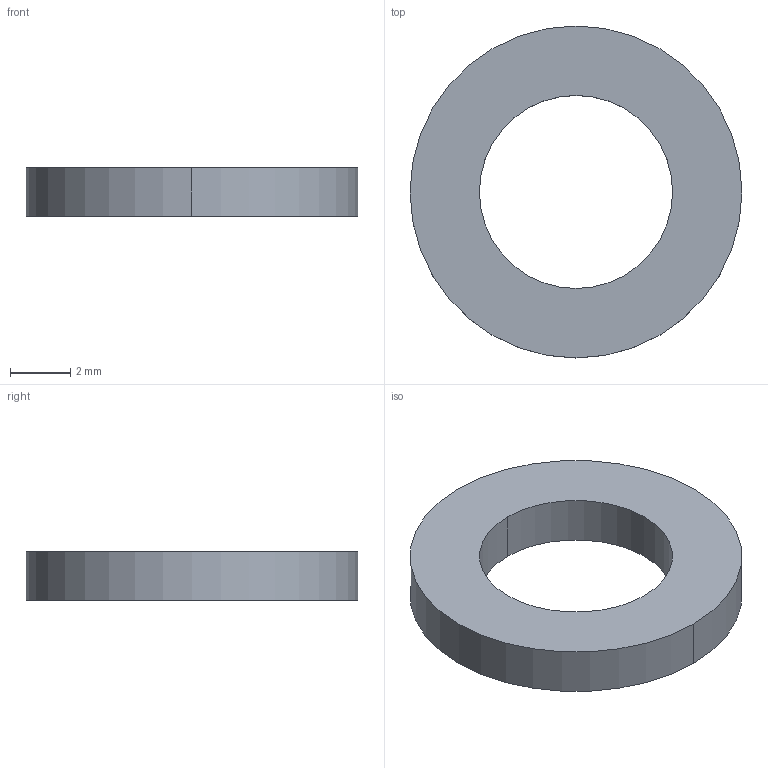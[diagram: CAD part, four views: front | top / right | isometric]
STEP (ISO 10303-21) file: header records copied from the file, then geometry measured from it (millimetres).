
FILE_DESCRIPTION(('3DEXPERIENCE STEP','CAx-IF Rec.Pracs.--- Model Styling and Organization---1.5--- 2016-08-15','CAx-IF Rec.Pracs.---Supplemental Geometry---1.0---2011-11-01','CAx-IF Rec.Pracs.--- Composite Materials ---3.4---2017-06-13','CAx-IF Rec.Pracs.---Tessellated 3D Geometry---1.0---2015-12-17'),'2;1');
FILE_NAME('\\?\D:\School\CarTech\CTU.25\Tutorials\Model\OEM\Washer_6.stp','2024-09-26T02:48:28+00:00',('none'),('none'),'3DEXPERIENCE Platform3DEXPERIENCE R2024x HotFix 4.24','3DEXPERIENCE Platform STEP AP242 v3','none');
FILE_SCHEMA(('AP242_MANAGED_MODEL_BASED_3D_ENGINEERING_MIM_LF {1 0 10303 442 1 1 4}'));
Length unit declared in the file: millimetre
Products named in the file (1): Washer_6_DIN_433_1
Bounding box: 11 x 11 x 1.6 mm (x, y, z)
Volume: 100.6 mm3; surface area: 213.2 mm2
Topology: 1 solids, 1 shells, 6 faces, 12 edges, 8 vertices
Faces by surface type: cylinder 4, plane 2
Entity records: 169 total; most frequent: CARTESIAN_POINT 25, ORIENTED_EDGE 24, DIRECTION 20, AXIS2_PLACEMENT_3D 13, EDGE_CURVE 12, CIRCLE 8, EDGE_LOOP 8, VERTEX_POINT 8
